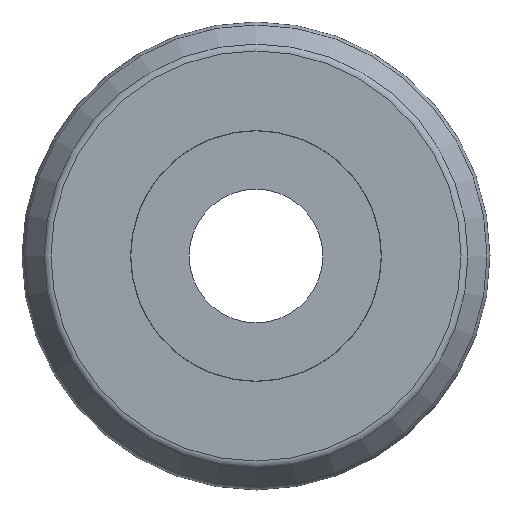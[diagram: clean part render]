
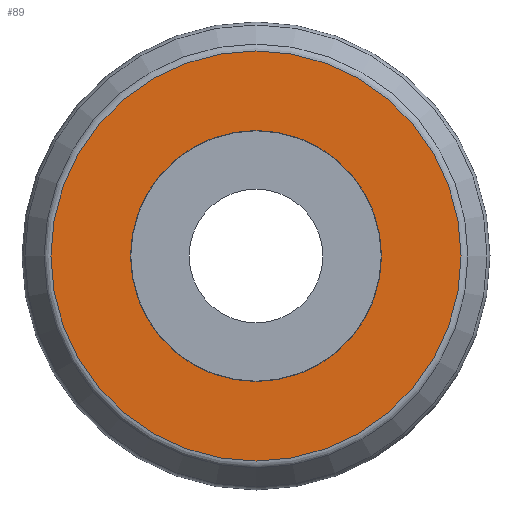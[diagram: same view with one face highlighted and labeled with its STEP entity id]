
A CAD part, left-side view. The second image highlights one B-rep face of the part: STEP entity #89.
In plain terms, the highlighted planar face has unit normal (-1, 0, 0).
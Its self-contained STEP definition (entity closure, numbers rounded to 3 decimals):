
#89 = ADVANCED_FACE( '', ( #136, #137 ), #138, .T. );
#136 = FACE_BOUND( '', #190, .T. );
#137 = FACE_OUTER_BOUND( '', #191, .T. );
#138 = PLANE( '', #192 );
#190 = EDGE_LOOP( '', ( #272 ) );
#191 = EDGE_LOOP( '', ( #273 ) );
#192 = AXIS2_PLACEMENT_3D( '', #274, #275, #276 );
#272 = ORIENTED_EDGE( '', *, *, #307, .T. );
#273 = ORIENTED_EDGE( '', *, *, #306, .F. );
#274 = CARTESIAN_POINT( '', ( -3.75, 12.269, 0. ) );
#275 = DIRECTION( '', ( -1., 0., 0. ) );
#276 = DIRECTION( '', ( 0., 0., 1. ) );
#306 = EDGE_CURVE( '', #338, #338, #339, .T. );
#307 = EDGE_CURVE( '', #340, #340, #341, .T. );
#338 = VERTEX_POINT( '', #374 );
#339 = CIRCLE( '', #375, 12.269 );
#340 = VERTEX_POINT( '', #376 );
#341 = CIRCLE( '', #377, 7.51 );
#374 = CARTESIAN_POINT( '', ( -3.75, 0., -12.269 ) );
#375 = AXIS2_PLACEMENT_3D( '', #424, #425, #426 );
#376 = CARTESIAN_POINT( '', ( -3.75, 0., -7.51 ) );
#377 = AXIS2_PLACEMENT_3D( '', #427, #428, #429 );
#424 = CARTESIAN_POINT( '', ( -3.75, 0., 0. ) );
#425 = DIRECTION( '', ( 1., 0., 0. ) );
#426 = DIRECTION( '', ( 0., 0., -1. ) );
#427 = CARTESIAN_POINT( '', ( -3.75, 0., 0. ) );
#428 = DIRECTION( '', ( 1., 0., 0. ) );
#429 = DIRECTION( '', ( 0., 0., -1. ) );
